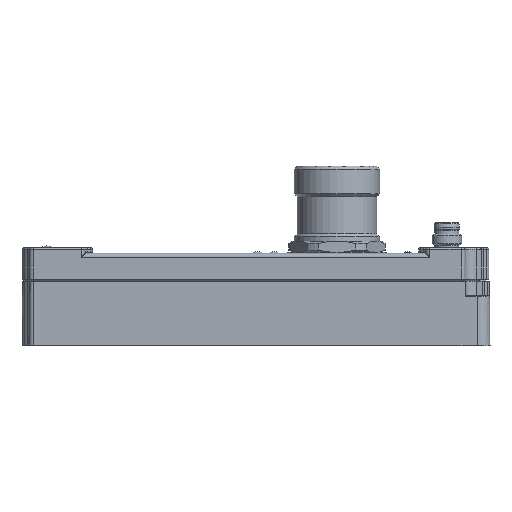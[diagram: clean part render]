
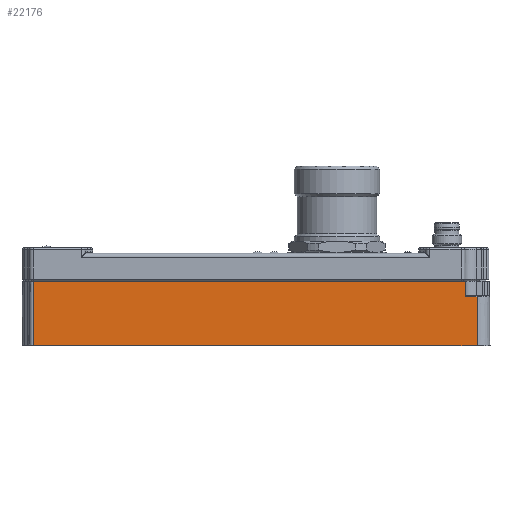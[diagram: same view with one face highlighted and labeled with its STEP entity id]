
A CAD part, left-side view. The second image highlights one B-rep face of the part: STEP entity #22176.
In plain terms, the highlighted planar face has unit normal (-1, 0, 0.009).
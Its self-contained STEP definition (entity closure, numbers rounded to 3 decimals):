
#20808=CARTESIAN_POINT('',(-9.25,6.5,5.811));
#20809=VERTEX_POINT('',#20808);
#20995=CARTESIAN_POINT('',(-9.25,123.153,5.811));
#20996=VERTEX_POINT('',#20995);
#21004=CARTESIAN_POINT('',(-9.25,6.5,5.811));
#21005=DIRECTION('',(0.0,1.0,0.0));
#21006=VECTOR('',#21005,116.653);
#21007=LINE('',#21004,#21006);
#21008=EDGE_CURVE('',#20809,#20996,#21007,.T.);
#22080=CARTESIAN_POINT('',(-9.286,3.347,1.613));
#22081=VERTEX_POINT('',#22080);
#22114=CARTESIAN_POINT('',(-9.286,6.5,1.613));
#22115=VERTEX_POINT('',#22114);
#22123=CARTESIAN_POINT('',(-9.286,6.5,1.613));
#22124=DIRECTION('',(0.0,-1.0,0.0));
#22125=VECTOR('',#22124,3.153);
#22126=LINE('',#22123,#22125);
#22127=EDGE_CURVE('',#22115,#22081,#22126,.T.);
#22139=CARTESIAN_POINT('',(-9.403,3.347,-11.689));
#22140=DIRECTION('',(-1.,0.,0.009));
#22141=DIRECTION('',(0.0,-1.0,0.0));
#22142=AXIS2_PLACEMENT_3D('',#22139,#22140,#22141);
#22143=PLANE('',#22142);
#22144=ORIENTED_EDGE('',*,*,#22127,.F.);
#22145=CARTESIAN_POINT('',(-9.286,6.5,1.613));
#22146=DIRECTION('',(0.009,0.0,1.));
#22147=VECTOR('',#22146,4.198);
#22148=LINE('',#22145,#22147);
#22149=EDGE_CURVE('',#22115,#20809,#22148,.T.);
#22150=ORIENTED_EDGE('',*,*,#22149,.T.);
#22151=ORIENTED_EDGE('',*,*,#21008,.T.);
#22152=CARTESIAN_POINT('',(-9.403,123.153,-11.689));
#22153=VERTEX_POINT('',#22152);
#22154=CARTESIAN_POINT('',(-9.403,123.153,-11.689));
#22155=DIRECTION('',(0.009,0.0,1.));
#22156=VECTOR('',#22155,17.501);
#22157=LINE('',#22154,#22156);
#22158=EDGE_CURVE('',#22153,#20996,#22157,.T.);
#22159=ORIENTED_EDGE('',*,*,#22158,.F.);
#22160=CARTESIAN_POINT('',(-9.403,3.347,-11.689));
#22161=VERTEX_POINT('',#22160);
#22162=CARTESIAN_POINT('',(-9.403,3.347,-11.689));
#22163=DIRECTION('',(0.0,1.0,0.0));
#22164=VECTOR('',#22163,119.805);
#22165=LINE('',#22162,#22164);
#22166=EDGE_CURVE('',#22161,#22153,#22165,.T.);
#22167=ORIENTED_EDGE('',*,*,#22166,.F.);
#22168=CARTESIAN_POINT('',(-9.403,3.347,-11.689));
#22169=DIRECTION('',(0.009,0.0,1.));
#22170=VECTOR('',#22169,13.302);
#22171=LINE('',#22168,#22170);
#22172=EDGE_CURVE('',#22161,#22081,#22171,.T.);
#22173=ORIENTED_EDGE('',*,*,#22172,.T.);
#22174=EDGE_LOOP('',(#22144,#22150,#22151,#22159,#22167,#22173));
#22175=FACE_OUTER_BOUND('',#22174,.T.);
#22176=ADVANCED_FACE('',(#22175),#22143,.T.);
